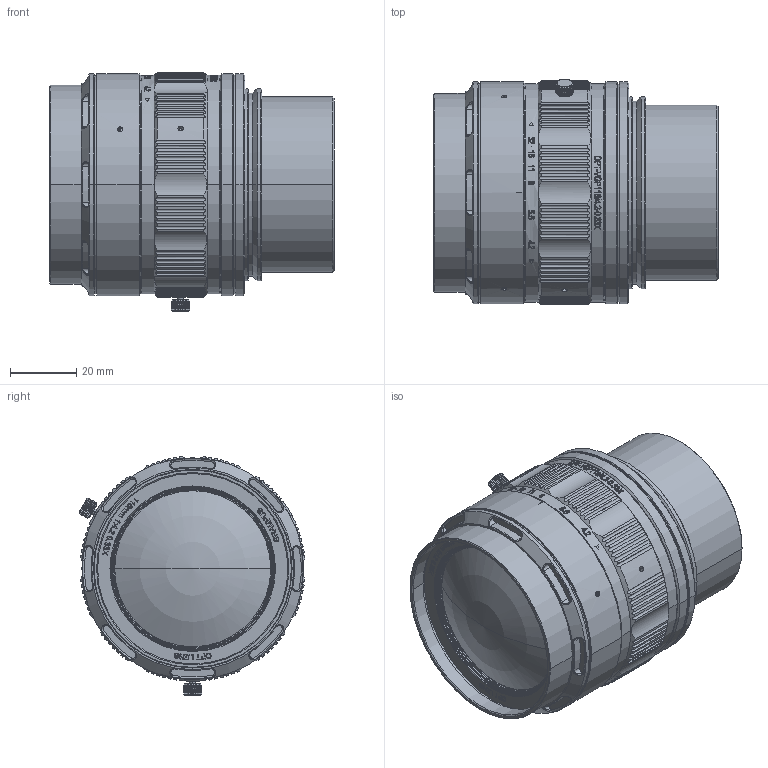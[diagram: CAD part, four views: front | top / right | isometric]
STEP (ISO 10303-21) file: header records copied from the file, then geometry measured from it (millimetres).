
FILE_DESCRIPTION((''),'2;1');
FILE_NAME('PRT0001','2022-08-13T10:16:38',('SCI-X3'),(''),'CREO PARAMETRIC BY PTC INC, 2019224','CREO PARAMETRIC BY PTC INC, 2019224','');
FILE_SCHEMA(('AUTOMOTIVE_DESIGN { 1 0 10303 214 1 1 1 1 }'));
Length unit declared in the file: millimetre
Products named in the file (1): PRT0001
Bounding box: 85.99 x 68.15 x 72.1 mm (x, y, z)
Volume: 239737.6 mm3; surface area: 27949.9 mm2
Topology: 1 solids, 1 shells, 1888 faces, 4946 edges, 3186 vertices
Faces by surface type: plane 560, cylinder 389, bspline 371, extrusion 364, cone 196, torus 4, sphere 4
Entity records: 73769 total; most frequent: CARTESIAN_POINT 31467, ORIENTED_EDGE 9872, DIRECTION 6569, EDGE_CURVE 4936, VERTEX_POINT 3182, VECTOR 2513, B_SPLINE_CURVE_WITH_KNOTS 2279, LINE 2149
